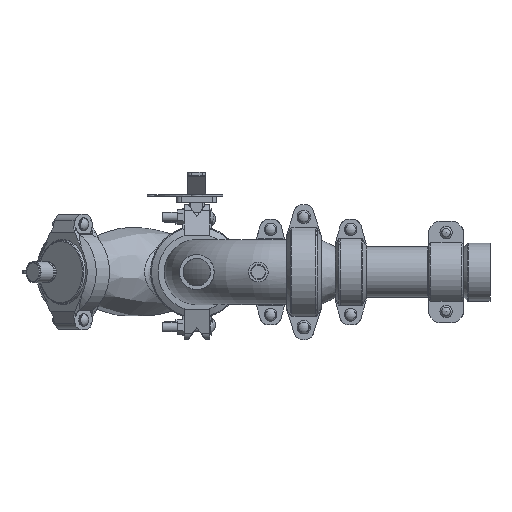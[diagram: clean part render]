
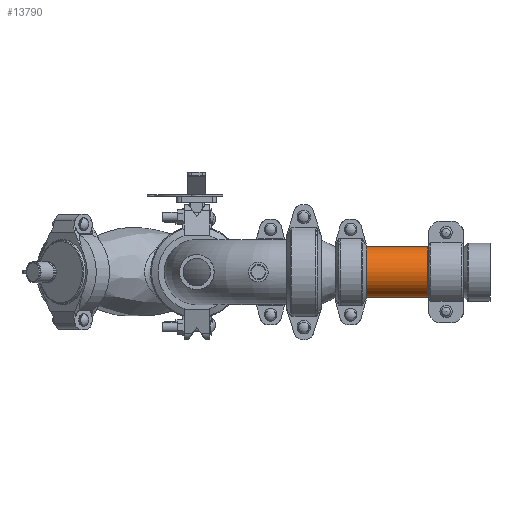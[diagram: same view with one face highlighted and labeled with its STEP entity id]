
A CAD part, front view. The second image highlights one B-rep face of the part: STEP entity #13790.
In plain terms, the highlighted cylindrical face has radius 44.45 mm (diameter 88.9 mm), a full revolution.
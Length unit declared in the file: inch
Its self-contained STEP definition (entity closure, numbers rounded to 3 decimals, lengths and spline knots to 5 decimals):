
#453=LINE('',#20833,#1455);
#1455=VECTOR('',#16577,1.75);
#2457=CYLINDRICAL_SURFACE('',#14927,1.75);
#2887=FACE_OUTER_BOUND('',#3633,.T.);
#3633=EDGE_LOOP('',(#8660,#8661,#8662,#8663,#8664,#8665));
#4537=CIRCLE('',#14925,1.75);
#4538=CIRCLE('',#14926,1.75);
#4539=CIRCLE('',#14928,1.75);
#4540=CIRCLE('',#14929,1.75);
#5309=VERTEX_POINT('',#20824);
#5310=VERTEX_POINT('',#20825);
#5311=VERTEX_POINT('',#20829);
#5312=VERTEX_POINT('',#20830);
#6655=EDGE_CURVE('',#5309,#5310,#4537,.T.);
#6656=EDGE_CURVE('',#5310,#5309,#4538,.T.);
#6657=EDGE_CURVE('',#5311,#5312,#4539,.T.);
#6658=EDGE_CURVE('',#5312,#5311,#4540,.T.);
#6659=EDGE_CURVE('',#5312,#5310,#453,.T.);
#8660=ORIENTED_EDGE('',*,*,#6657,.F.);
#8661=ORIENTED_EDGE('',*,*,#6658,.F.);
#8662=ORIENTED_EDGE('',*,*,#6659,.T.);
#8663=ORIENTED_EDGE('',*,*,#6656,.T.);
#8664=ORIENTED_EDGE('',*,*,#6655,.T.);
#8665=ORIENTED_EDGE('',*,*,#6659,.F.);
#13790=ADVANCED_FACE('',(#2887),#2457,.T.);
#14925=AXIS2_PLACEMENT_3D('',#20826,#16567,#16568);
#14926=AXIS2_PLACEMENT_3D('',#20827,#16569,#16570);
#14927=AXIS2_PLACEMENT_3D('',#20828,#16571,#16572);
#14928=AXIS2_PLACEMENT_3D('',#20831,#16573,#16574);
#14929=AXIS2_PLACEMENT_3D('',#20832,#16575,#16576);
#16567=DIRECTION('center_axis',(1.,0.,0.));
#16568=DIRECTION('ref_axis',(0.,0.,-1.));
#16569=DIRECTION('center_axis',(1.,0.,0.));
#16570=DIRECTION('ref_axis',(0.,0.,-1.));
#16571=DIRECTION('center_axis',(1.,0.,0.));
#16572=DIRECTION('ref_axis',(0.,1.,0.));
#16573=DIRECTION('center_axis',(1.,0.,0.));
#16574=DIRECTION('ref_axis',(0.,0.,-1.));
#16575=DIRECTION('center_axis',(1.,0.,0.));
#16576=DIRECTION('ref_axis',(0.,0.,-1.));
#16577=DIRECTION('',(-1.,0.,0.));
#20824=CARTESIAN_POINT('',(-2.1385,1.75,0.));
#20825=CARTESIAN_POINT('',(-2.1385,-1.75,0.));
#20826=CARTESIAN_POINT('Origin',(-2.1385,0.,0.));
#20827=CARTESIAN_POINT('Origin',(-2.1385,0.,0.));
#20828=CARTESIAN_POINT('Origin',(0.,0.,0.));
#20829=CARTESIAN_POINT('',(2.1385,1.75,0.));
#20830=CARTESIAN_POINT('',(2.1385,-1.75,0.));
#20831=CARTESIAN_POINT('Origin',(2.1385,0.,0.));
#20832=CARTESIAN_POINT('Origin',(2.1385,0.,0.));
#20833=CARTESIAN_POINT('',(0.,-1.75,0.));
